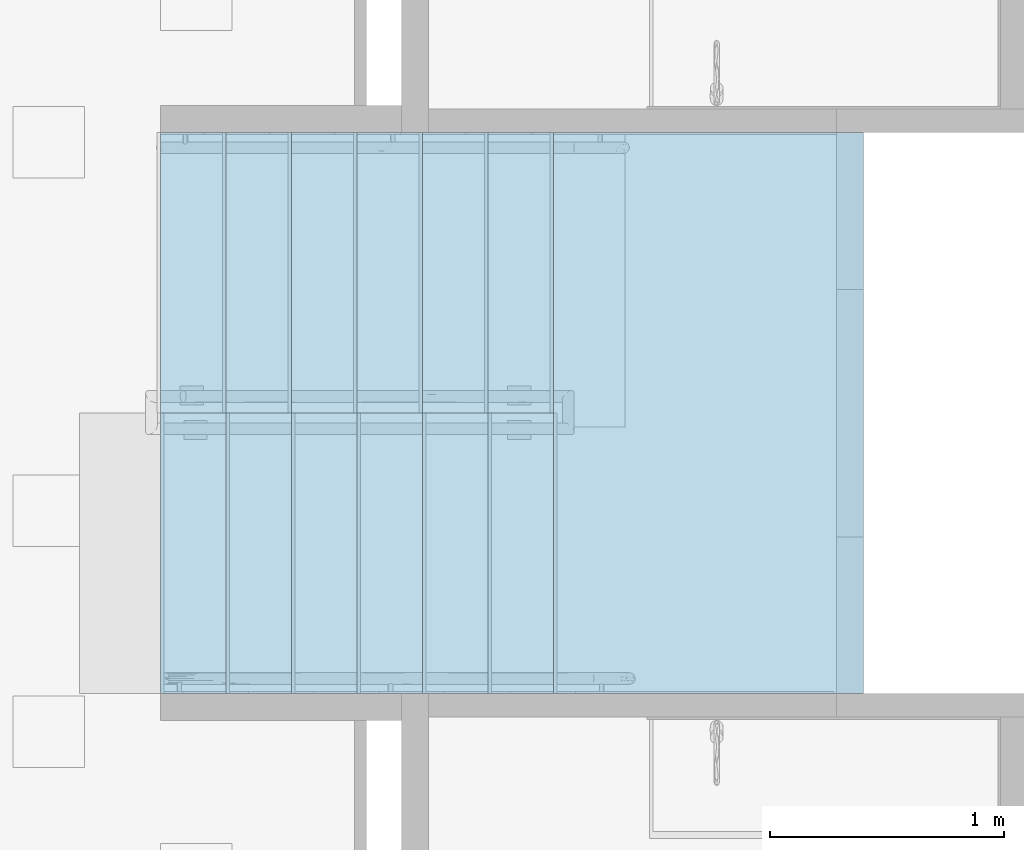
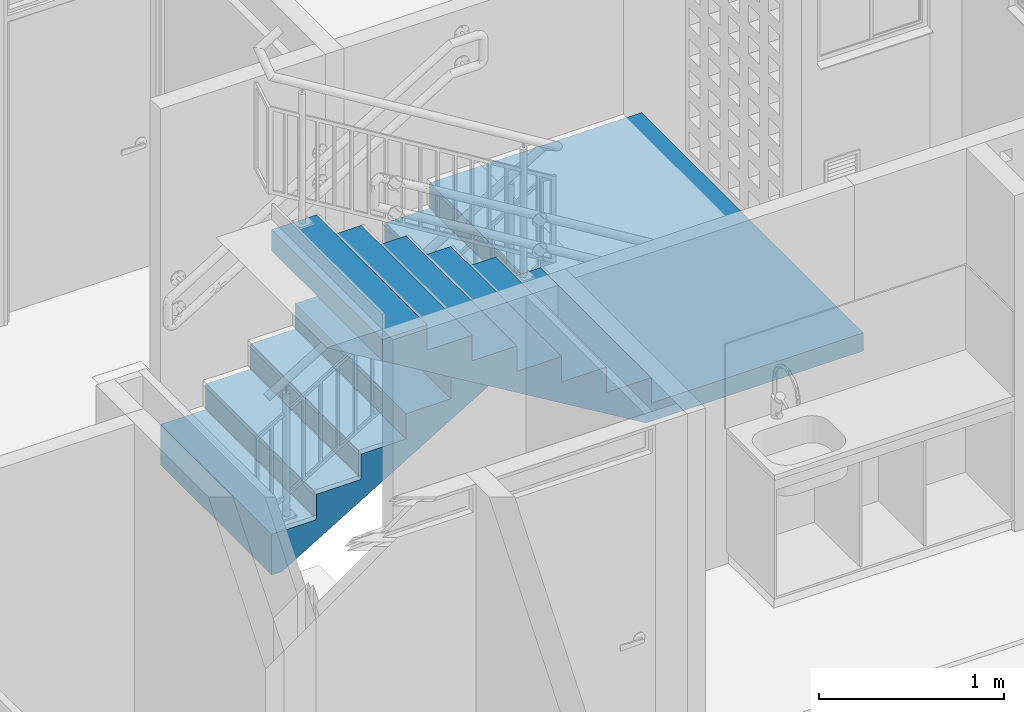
# One storey, part 33 of 48: 1 stair.
"""IFC4 building model written with IfcOpenShell, lengths in metres."""

from ifc_helpers import new_model, entity, si_unit, converted_unit, derived_unit, direction, frame, origin, place, context, subcontext, project, spatial, polygons, material, type_object, element, save


model = new_model("IFC4")

# Units and contexts
model_context = context("Model", 3, precision=1e-05, world=origin(), true_north=direction((6.123031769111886e-17, 1.0)))
body_context = subcontext(model_context, "Body", "Model", "MODEL_VIEW")
ifc_project = project(units=[si_unit("LENGTHUNIT", "METRE"), si_unit("AREAUNIT", "SQUARE_METRE"), si_unit("VOLUMEUNIT", "CUBIC_METRE"), converted_unit("PLANEANGLEUNIT", "DEGREE", entity("IfcRatioMeasure", 0.017453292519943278), si_unit("PLANEANGLEUNIT", "RADIAN"), dimensions=[0, 0, 0, 0, 0, 0, 0]), si_unit("MASSUNIT", "GRAM", prefix="KILO"), derived_unit("MASSDENSITYUNIT", [(si_unit("MASSUNIT", "GRAM", prefix="KILO"), 1), (si_unit("LENGTHUNIT", "METRE"), -3)]), derived_unit("IONCONCENTRATIONUNIT", [(si_unit("MASSUNIT", "GRAM", prefix="KILO"), 1), (si_unit("LENGTHUNIT", "METRE"), -3)]), derived_unit("MOMENTOFINERTIAUNIT", [(si_unit("LENGTHUNIT", "METRE"), 4)]), si_unit("TIMEUNIT", "SECOND"), si_unit("FREQUENCYUNIT", "HERTZ"), si_unit("THERMODYNAMICTEMPERATUREUNIT", "DEGREE_CELSIUS"), derived_unit("THERMALTRANSMITTANCEUNIT", [(si_unit("MASSUNIT", "GRAM", prefix="KILO"), 1), (si_unit("THERMODYNAMICTEMPERATUREUNIT", "KELVIN"), -1), (si_unit("TIMEUNIT", "SECOND"), -3)]), derived_unit("THERMALCONDUCTANCEUNIT", [(si_unit("MASSUNIT", "GRAM", prefix="KILO"), 1), (si_unit("THERMODYNAMICTEMPERATUREUNIT", "KELVIN"), -1), (si_unit("TIMEUNIT", "SECOND"), -3), (si_unit("LENGTHUNIT", "METRE"), 1)]), derived_unit("VOLUMETRICFLOWRATEUNIT", [(si_unit("LENGTHUNIT", "METRE"), 3), (si_unit("TIMEUNIT", "SECOND"), -1)]), derived_unit("MASSFLOWRATEUNIT", [(si_unit("MASSUNIT", "GRAM", prefix="KILO"), 1), (si_unit("TIMEUNIT", "SECOND"), -1)]), derived_unit("ROTATIONALFREQUENCYUNIT", [(si_unit("TIMEUNIT", "SECOND"), -1)]), si_unit("ELECTRICCURRENTUNIT", "AMPERE"), si_unit("ELECTRICVOLTAGEUNIT", "VOLT"), si_unit("POWERUNIT", "WATT"), si_unit("FORCEUNIT", "NEWTON", prefix="KILO"), si_unit("ILLUMINANCEUNIT", "LUX"), si_unit("LUMINOUSFLUXUNIT", "LUMEN"), si_unit("LUMINOUSINTENSITYUNIT", "CANDELA"), derived_unit("USERDEFINED", [(si_unit("MASSUNIT", "GRAM", prefix="KILO"), -1), (si_unit("LENGTHUNIT", "METRE"), -2), (si_unit("TIMEUNIT", "SECOND"), 3), (si_unit("LUMINOUSFLUXUNIT", "LUMEN"), 1)]), derived_unit("USERDEFINED", [(si_unit("MASSUNIT", "GRAM", prefix="KILO"), 1), (si_unit("TIMEUNIT", "SECOND"), -3), (si_unit("LENGTHUNIT", "METRE"), 3), (si_unit("ELECTRICCURRENTUNIT", "AMPERE"), -2)]), derived_unit("SOUNDPOWERUNIT", [(si_unit("MASSUNIT", "GRAM", prefix="KILO"), 1), (si_unit("TIMEUNIT", "SECOND"), -3), (si_unit("LENGTHUNIT", "METRE"), 2)]), derived_unit("SOUNDPRESSUREUNIT", [(si_unit("MASSUNIT", "GRAM", prefix="KILO"), 1), (si_unit("LENGTHUNIT", "METRE"), -1), (si_unit("TIMEUNIT", "SECOND"), -2)]), derived_unit("LINEARVELOCITYUNIT", [(si_unit("LENGTHUNIT", "METRE"), 1), (si_unit("TIMEUNIT", "SECOND"), -1)]), si_unit("PRESSUREUNIT", "PASCAL"), derived_unit("USERDEFINED", [(si_unit("MASSUNIT", "GRAM", prefix="KILO"), 1), (si_unit("LENGTHUNIT", "METRE"), -2), (si_unit("TIMEUNIT", "SECOND"), -2)]), derived_unit("LINEARFORCEUNIT", [(si_unit("MASSUNIT", "GRAM", prefix="KILO"), 1), (si_unit("TIMEUNIT", "SECOND"), -2)]), derived_unit("PLANARFORCEUNIT", [(si_unit("MASSUNIT", "GRAM", prefix="KILO"), 1), (si_unit("LENGTHUNIT", "METRE"), -1), (si_unit("TIMEUNIT", "SECOND"), -2)]), derived_unit("SPECIFICHEATCAPACITYUNIT", [(si_unit("THERMODYNAMICTEMPERATUREUNIT", "KELVIN"), -1), (si_unit("LENGTHUNIT", "METRE"), 2), (si_unit("TIMEUNIT", "SECOND"), -2)]), derived_unit("HEATINGVALUEUNIT", [(si_unit("LENGTHUNIT", "METRE"), 2), (si_unit("TIMEUNIT", "SECOND"), -2)]), derived_unit("VAPORPERMEABILITYUNIT", [(si_unit("LENGTHUNIT", "METRE"), -1), (si_unit("TIMEUNIT", "SECOND"), 1)]), derived_unit("DYNAMICVISCOSITYUNIT", [(si_unit("MASSUNIT", "GRAM", prefix="KILO"), 1), (si_unit("TIMEUNIT", "SECOND"), -1), (si_unit("LENGTHUNIT", "METRE"), -1)]), derived_unit("THERMALEXPANSIONCOEFFICIENTUNIT", [(si_unit("THERMODYNAMICTEMPERATUREUNIT", "KELVIN"), -1)]), derived_unit("MODULUSOFELASTICITYUNIT", [(si_unit("MASSUNIT", "GRAM", prefix="KILO"), 1), (si_unit("LENGTHUNIT", "METRE"), -1), (si_unit("TIMEUNIT", "SECOND"), -2)]), derived_unit("ISOTHERMALMOISTURECAPACITYUNIT", [(si_unit("LENGTHUNIT", "METRE"), 3), (si_unit("MASSUNIT", "GRAM", prefix="KILO"), -1)]), derived_unit("MOISTUREDIFFUSIVITYUNIT", [(si_unit("TIMEUNIT", "SECOND"), -1), (si_unit("LENGTHUNIT", "METRE"), 2)])], contexts=[model_context])

# Site, building, storey
site_placement = place(None, origin())
site = spatial("IfcSite", under=ifc_project, at=site_placement, Name="Default", CompositionType="ELEMENT")
building_placement = place(site_placement, origin())
building = spatial("IfcBuilding", under=site, at=building_placement, CompositionType="ELEMENT")
storey_placement = place(building_placement, frame((0.0, 0.0, 4.700000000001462)))
storey = spatial("IfcBuildingStorey", under=building, at=storey_placement, Name="Nivel 3", CompositionType="ELEMENT", Elevation=4.700000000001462)

# Stair
ifc_material = material(Name="Concreto (Aire)", Category="Materials")
stair_type = type_object("IfcStairType", Name="Stair:B1080 - 2.40 x 2.88 - Escalera en concreto de dos tramos piso tipo", PredefinedType="NOTDEFINED")
stair_placement = place(storey_placement, frame((9.55250000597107, -7.625000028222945, -0.09999999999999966)))
element("IfcStair", 1, at=stair_placement, inside=storey, type_object=stair_type, material=ifc_material, Name="Stair:B1080 - 2.40 x 2.88 - Escalera en concreto de dos tramos piso tipo", ObjectType="Stair:B1080 - 2.40 x 2.88 - Escalera en concreto de dos tramos piso tipo", PredefinedType="NOTDEFINED", context=body_context, shape_type="Tessellation", body=[
    polygons([(0.2800000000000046, 2.4000000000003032, 0.26785714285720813), (4.331468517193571e-15, 2.4000000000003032, 0.26785714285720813), (4.331468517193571e-15, 1.2000000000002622, 0.26785714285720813), (0.28000000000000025, 1.200000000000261, 0.26785714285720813), (0.28000000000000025, 2.4000000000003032, 0.4357142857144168), (0.5600000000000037, 2.4000000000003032, 0.4357142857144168), (0.5600000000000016, 2.4000000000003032, 0.6035714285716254), (0.8400000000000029, 2.4000000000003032, 0.6035714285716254), (0.8400000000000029, 2.4000000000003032, 0.771428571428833), (1.120000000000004, 2.4000000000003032, 0.771428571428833), (1.1199999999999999, 2.4000000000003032, 0.9392857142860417), (1.4000000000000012, 2.4000000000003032, 0.9392857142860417), (1.399999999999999, 2.4000000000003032, 1.1071428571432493), (1.6800000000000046, 2.4000000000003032, 1.1071428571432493), (1.6800000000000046, 2.4000000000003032, 1.275000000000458), (3.005000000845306, 2.4000000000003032, 1.275000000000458), (3.005000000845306, 2.4000000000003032, 1.155000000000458), (1.9932138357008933, 2.4000000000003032, 1.155000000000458), (0.0665755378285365, 2.4000000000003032, 5.414335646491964e-16), (4.331468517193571e-15, 2.4000000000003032, 0.0), (4.331468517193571e-15, 1.2000000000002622, 0.0), (1.993213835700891, 1.2000000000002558, 1.155000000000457), (0.0665755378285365, 1.2000000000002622, 5.414335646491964e-16), (1.6467861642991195, 1.199000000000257, 1.155000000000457), (1.646786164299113, 1.0828671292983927e-15, 1.155000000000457), (-2.1657342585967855e-15, 1.0828671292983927e-15, 2.142231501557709), (4.331468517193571e-15, 1.1990000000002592, 2.142231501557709), (3.005000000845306, 1.0828671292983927e-15, 1.155000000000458), (1.6800000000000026, 1.199000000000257, 1.155000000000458), (1.6800000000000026, 1.2000000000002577, 1.155000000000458), (0.28000000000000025, 1.2000000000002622, 0.4357142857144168), (0.5600000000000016, 1.200000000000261, 0.4357142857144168), (0.5600000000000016, 1.200000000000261, 0.6035714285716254), (0.8400000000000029, 1.200000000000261, 0.6035714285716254), (0.8400000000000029, 1.200000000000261, 0.771428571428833), (1.1199999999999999, 1.200000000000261, 0.771428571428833), (1.1199999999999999, 1.200000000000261, 0.9392857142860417), (1.399999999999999, 1.20000000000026, 0.9392857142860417), (1.399999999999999, 1.200000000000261, 1.1071428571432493), (1.6800000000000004, 1.2000000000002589, 1.1071428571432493), (1.6800000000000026, 1.2000000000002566, 1.275000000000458), (1.6800000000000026, 1.199000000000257, 1.275000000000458), (1.6799999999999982, 1.0828671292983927e-15, 1.275000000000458), (3.005000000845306, 1.0828671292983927e-15, 1.275000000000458), (1.6799999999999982, 1.0828671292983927e-15, 1.4428571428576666), (1.4000000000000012, 1.0828671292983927e-15, 1.4428571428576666), (1.4000000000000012, 1.0828671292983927e-15, 1.6107142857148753), (1.1199999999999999, 1.0828671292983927e-15, 1.6107142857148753), (1.1199999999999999, 1.0828671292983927e-15, 1.7785714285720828), (0.8399999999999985, 1.0828671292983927e-15, 1.7785714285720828), (0.8399999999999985, 1.0828671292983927e-15, 1.9464285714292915), (0.5600000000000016, 1.0828671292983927e-15, 1.9464285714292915), (0.5600000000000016, 1.0828671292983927e-15, 2.114285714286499), (0.28000000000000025, 1.0828671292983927e-15, 2.114285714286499), (0.28000000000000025, 1.0828671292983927e-15, 2.2821428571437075), (-2.1657342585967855e-15, 1.0828671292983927e-15, 2.2821428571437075), (1.6800000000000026, 1.199000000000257, 1.4428571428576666), (1.4000000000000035, 1.199000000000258, 1.4428571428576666), (1.4000000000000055, 1.199000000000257, 1.6107142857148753), (1.120000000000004, 1.199000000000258, 1.6107142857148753), (1.120000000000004, 1.199000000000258, 1.7785714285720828), (0.8400000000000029, 1.1990000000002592, 1.7785714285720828), (0.8400000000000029, 1.199000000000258, 1.9464285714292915), (0.5600000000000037, 1.1990000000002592, 1.9464285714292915), (0.5600000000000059, 1.199000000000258, 2.114285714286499), (0.2800000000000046, 1.1990000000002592, 2.114285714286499), (0.2800000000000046, 1.199000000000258, 2.2821428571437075), (4.331468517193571e-15, 1.199000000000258, 2.2821428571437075)], [[[1, 2, 3, 4]], [[2, 1, 5, 6, 7, 8, 9, 10, 11, 12, 13, 14, 15, 16, 17, 18, 19, 20]], [[3, 2, 20, 21]], [[18, 22, 23, 19]], [[24, 25, 26, 27]], [[22, 18, 17, 28, 25, 24, 29, 30]], [[6, 5, 31, 32]], [[8, 7, 33, 34]], [[10, 9, 35, 36]], [[12, 11, 37, 38]], [[14, 13, 39, 40]], [[16, 15, 41, 42, 43, 44]], [[42, 41, 30, 29]], [[44, 43, 45, 46, 47, 48, 49, 50, 51, 52, 53, 54, 55, 56, 26, 25, 28]], [[16, 44, 28, 17]], [[15, 14, 40, 30, 41]], [[46, 45, 57, 58]], [[48, 47, 59, 60]], [[50, 49, 61, 62]], [[52, 51, 63, 64]], [[54, 53, 65, 66]], [[56, 55, 67, 68]], [[21, 20, 19, 23]], [[4, 3, 21, 23, 22, 30, 40, 39, 38, 37, 36, 35, 34, 33, 32, 31]], [[1, 4, 31, 5]], [[7, 6, 32, 33]], [[9, 8, 34, 35]], [[11, 10, 36, 37]], [[13, 12, 38, 39]], [[43, 42, 57, 45]], [[58, 57, 42, 29, 24, 27, 68, 67, 66, 65, 64, 63, 62, 61, 60, 59]], [[47, 46, 58, 59]], [[49, 48, 60, 61]], [[51, 50, 62, 63]], [[53, 52, 64, 65]], [[55, 54, 66, 67]], [[56, 68, 27, 26]]], closed=True),
])

save(model, "model.ifc")
